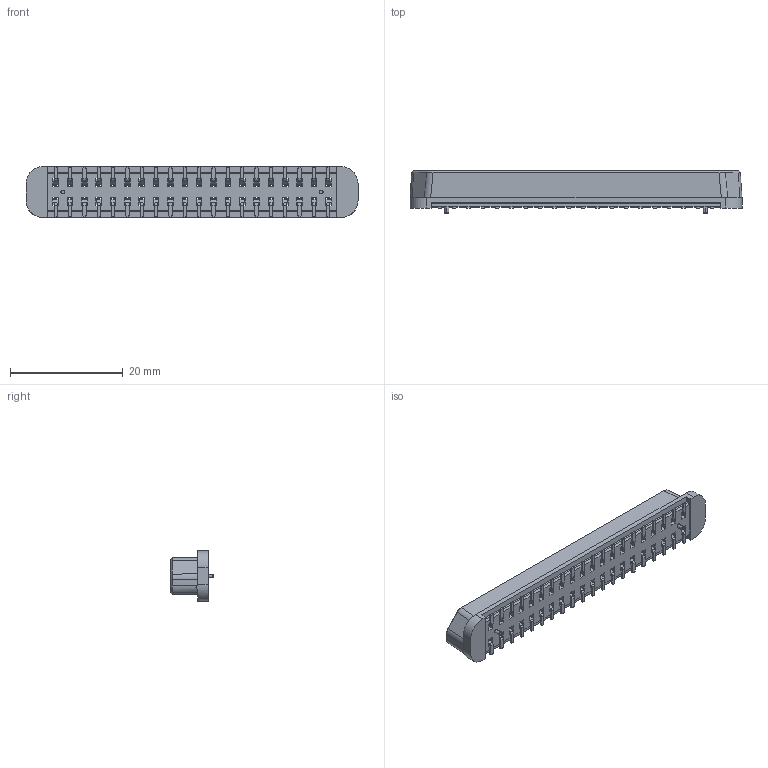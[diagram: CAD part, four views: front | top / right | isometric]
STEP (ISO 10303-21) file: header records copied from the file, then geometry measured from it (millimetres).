
FILE_DESCRIPTION (( 'STEP AP203' ), '1' );
FILE_NAME ('HC-PBB254A-1-40-F-H6.7-XX-P-04 (2.54 单槽 母座 立贴 带柱-HCTL).STEP', '2026-03-11T09:47:04', ( '' ), ( '' ), 'SwSTEP 2.0', 'SolidWorks 2025', '' );
FILE_SCHEMA (( 'CONFIG_CONTROL_DESIGN' ));
Length unit declared in the file: millimetre
Products named in the file (1): HC-PBB254A-1-40-F-H6.7-XX-P-04 (2.54 单槽 母座 立贴 带柱-HCTL)
Bounding box: 58.8 x 7.6 x 9 mm (x, y, z)
Volume: 1524.6 mm3; surface area: 3493.1 mm2
Topology: 1 solids, 1 shells, 1433 faces, 4698 edges, 3070 vertices
Faces by surface type: plane 961, cylinder 458, bspline 6, torus 4, cone 4
Entity records: 51953 total; most frequent: CARTESIAN_POINT 9672, ORIENTED_EDGE 9396, DIRECTION 8436, EDGE_CURVE 4698, VECTOR 3748, LINE 3748, VERTEX_POINT 3070, AXIS2_PLACEMENT_3D 2344
